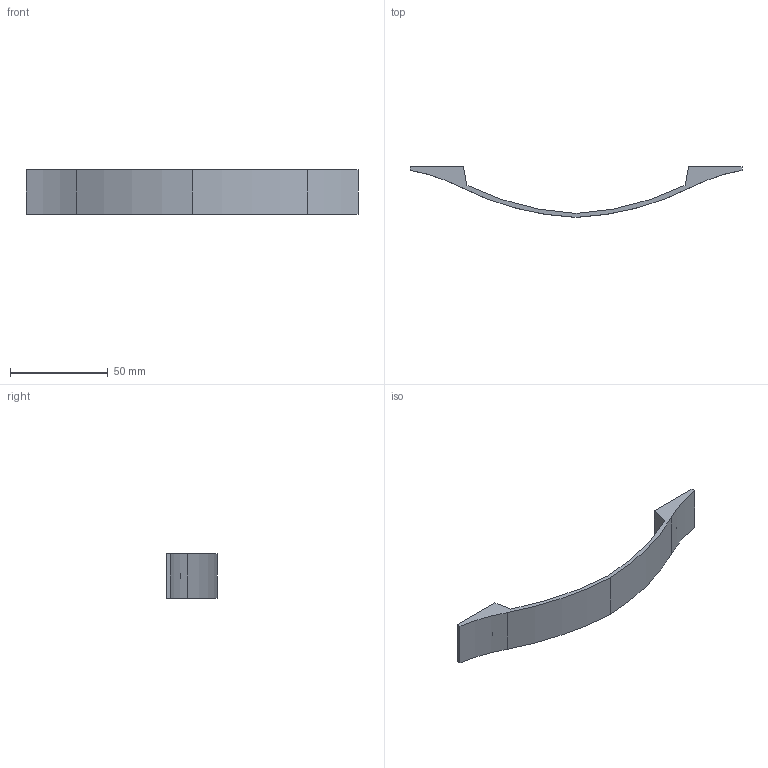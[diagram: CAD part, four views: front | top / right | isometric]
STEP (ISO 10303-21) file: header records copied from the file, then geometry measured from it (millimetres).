
FILE_DESCRIPTION( ( '' ), '1' );
FILE_NAME( 'C:/Documents and Settings/Sachin/Desktop/Sheet 10_1/stp/9065611.stp', '2013-10-22T11:54:58', ( '' ), ( '' ), ' ', ' ', ' ' );
FILE_SCHEMA( ( 'CONFIG_CONTROL_DESIGN' ) );
Length unit declared in the file: millimetre
Products named in the file (1): 1
Bounding box: 170 x 26 x 23 mm (x, y, z)
Volume: 13300.3 mm3; surface area: 9957.8 mm2
Topology: 1 solids, 1 shells, 20 faces, 48 edges, 32 vertices
Faces by surface type: cylinder 10, plane 10
Entity records: 636 total; most frequent: DIRECTION 110, CARTESIAN_POINT 101, ORIENTED_EDGE 96, EDGE_CURVE 48, AXIS2_PLACEMENT_3D 41, VERTEX_POINT 32, LINE 28, VECTOR 28
